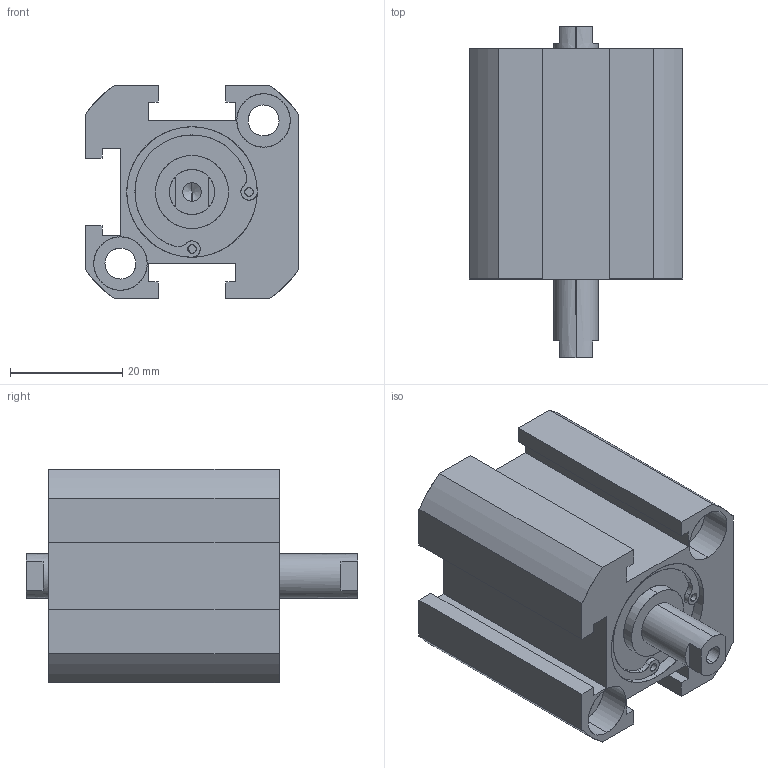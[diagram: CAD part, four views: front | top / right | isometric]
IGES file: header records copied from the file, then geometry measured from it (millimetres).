
Start section: SolidWorks IGES file using analytic representation for surfaces
Global section: file name: C:\Users\Toshiba\Desktop\XG#7-20D-10.IGS; native system: SolidWorks 2014; preprocessor: SolidWorks 2014; author: Toshiba; date: 160524.095724; units: millimetre
Bounding box: 38 x 59 x 38 mm (x, y, z)
Surface area: 13439.4 mm2 (no closed solid volume)
Topology: 0 solids, 0 shells, 120 faces, 1800 edges, 1792 vertices
Faces by surface type: revolution 66, bspline 54
